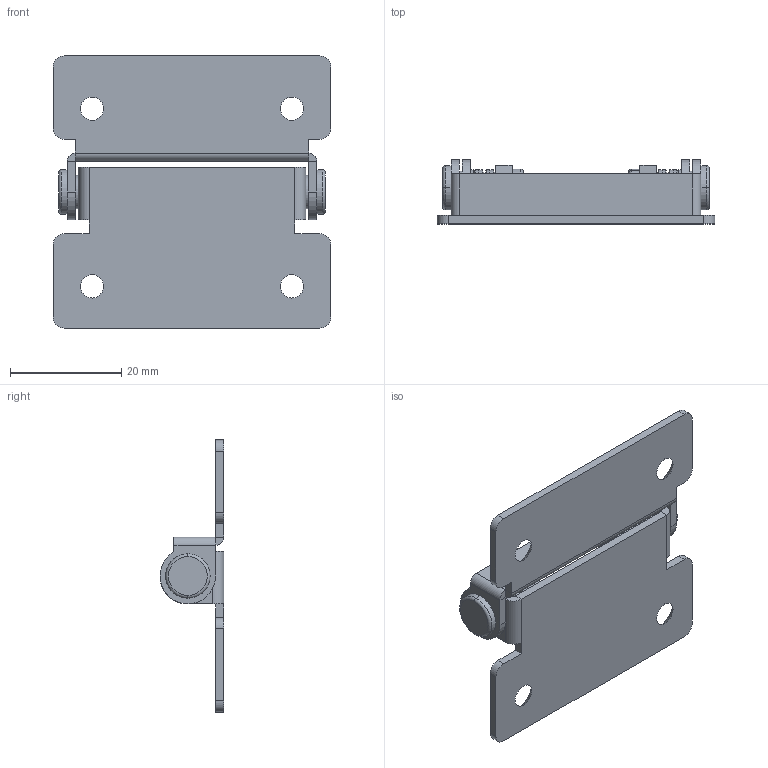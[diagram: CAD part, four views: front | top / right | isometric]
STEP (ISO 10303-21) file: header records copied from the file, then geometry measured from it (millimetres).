
FILE_DESCRIPTION (( 'STEP AP214' ), '1' );
FILE_NAME ('DP038-.STEP', '2023-07-20T06:48:05', ( '' ), ( '' ), 'SwSTEP 2.0', 'SolidWorks 2019', '' );
FILE_SCHEMA (( 'AUTOMOTIVE_DESIGN' ));
Length unit declared in the file: millimetre
Products named in the file (3): 錨璃2; 錨璃1; DP038-
Assembly tree (3 placements, depth 2):
  DP038-
    錨璃1
    錨璃2  x2
Bounding box: 50 x 11.5 x 49 mm (x, y, z)
Volume: 4953.4 mm3; surface area: 8323.3 mm2
Topology: 18 solids, 18 shells, 344 faces, 834 edges, 530 vertices
Faces by surface type: cylinder 190, plane 98, cone 30, bspline 18, torus 8
Entity records: 15157 total; most frequent: CARTESIAN_POINT 7992, ORIENTED_EDGE 1482, DIRECTION 1365, EDGE_CURVE 741, AXIS2_PLACEMENT_3D 527, VERTEX_POINT 470, EDGE_LOOP 353, VECTOR 311
